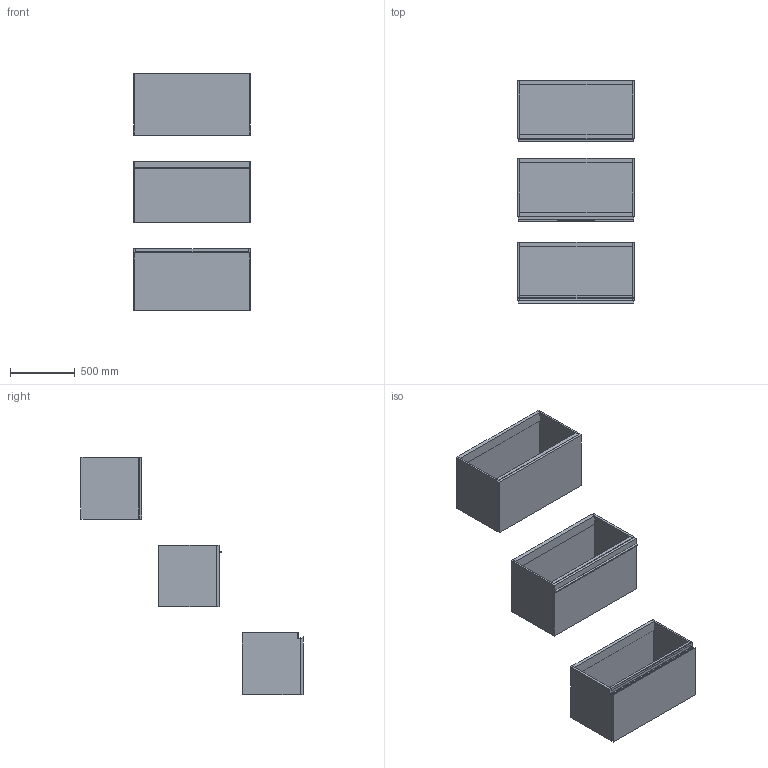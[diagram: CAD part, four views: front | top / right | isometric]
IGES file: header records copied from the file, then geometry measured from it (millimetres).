
Start section: Data from Parasolid IGES Translator 19.0.9, Copyright(c) 2006 Siemens PL M Software. All Rights Reserved.
Global section: file name: noorth-SI-H 48 D 47 W 90_8460.igs; native system: By Siemens PLM Incorporated; preprocessor: XPlus GENERIC/IGES 19.0.9; author: Noname; organization: Noname; date: 20200601.104303; units: metre
Bounding box: 900 x 1719.1 x 1840.01 mm (x, y, z)
Volume: 74301451.2 mm3; surface area: 11226330.6 mm2
Topology: 23 solids, 23 shells, 196 faces, 418 edges, 258 vertices
Faces by surface type: plane 152, extrusion 16, bspline 16, cylinder 12
